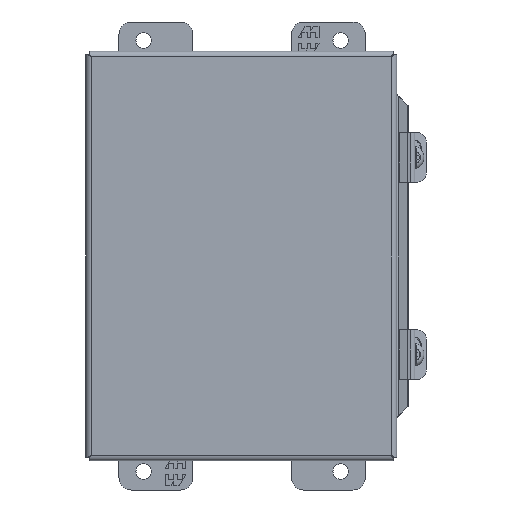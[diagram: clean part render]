
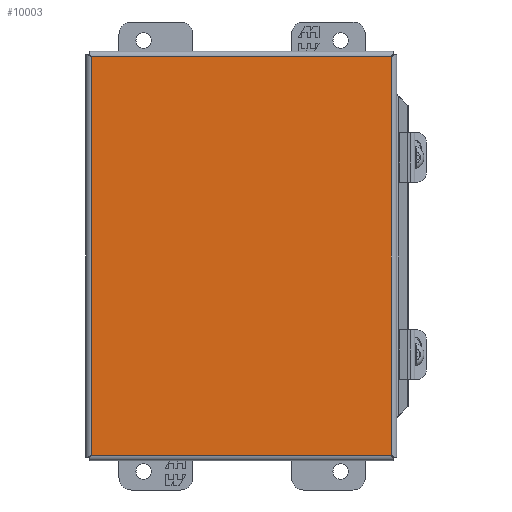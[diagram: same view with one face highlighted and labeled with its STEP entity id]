
A CAD part, front view. The second image highlights one B-rep face of the part: STEP entity #10003.
In plain terms, the highlighted planar face has unit normal (0, -1, 0).
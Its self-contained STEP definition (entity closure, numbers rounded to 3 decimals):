
#2596=ORIENTED_EDGE('',*,*,#4630,.T.);
#2597=ORIENTED_EDGE('',*,*,#4631,.T.);
#2598=ORIENTED_EDGE('',*,*,#4632,.T.);
#2599=ORIENTED_EDGE('',*,*,#4633,.T.);
#4630=EDGE_CURVE('',#5744,#5731,#6664,.T.);
#4631=EDGE_CURVE('',#5731,#5720,#6665,.T.);
#4632=EDGE_CURVE('',#5720,#5753,#6666,.T.);
#4633=EDGE_CURVE('',#5753,#5744,#6667,.T.);
#5720=VERTEX_POINT('',#17532);
#5731=VERTEX_POINT('',#17559);
#5744=VERTEX_POINT('',#17590);
#5753=VERTEX_POINT('',#17614);
#6664=LINE('',#17647,#7596);
#6665=LINE('',#17648,#7597);
#6666=LINE('',#17649,#7598);
#6667=LINE('',#17650,#7599);
#7596=VECTOR('',#12715,1000.);
#7597=VECTOR('',#12716,1000.);
#7598=VECTOR('',#12717,1000.);
#7599=VECTOR('',#12718,1000.);
#8384=EDGE_LOOP('',(#2596,#2597,#2598,#2599));
#9039=FACE_BOUND('',#8384,.T.);
#9508=PLANE('',#10798);
#10003=ADVANCED_FACE('',(#9039),#9508,.T.);
#10798=AXIS2_PLACEMENT_3D('',#17646,#12713,#12714);
#12713=DIRECTION('',(0.,-1.,0.));
#12714=DIRECTION('',(0.,0.,-1.));
#12715=DIRECTION('',(0.,0.,-1.));
#12716=DIRECTION('',(1.,0.,0.));
#12717=DIRECTION('',(0.,0.,1.));
#12718=DIRECTION('',(-1.,0.,0.));
#17532=CARTESIAN_POINT('',(77.419,0.,-102.819));
#17559=CARTESIAN_POINT('',(-77.419,0.,-102.819));
#17590=CARTESIAN_POINT('',(-77.419,0.,102.819));
#17614=CARTESIAN_POINT('',(77.419,0.,102.819));
#17646=CARTESIAN_POINT('',(-77.419,0.,-102.819));
#17647=CARTESIAN_POINT('',(-77.419,0.,102.819));
#17648=CARTESIAN_POINT('',(-77.419,0.,-102.819));
#17649=CARTESIAN_POINT('',(77.419,0.,-102.819));
#17650=CARTESIAN_POINT('',(77.419,0.,102.819));
